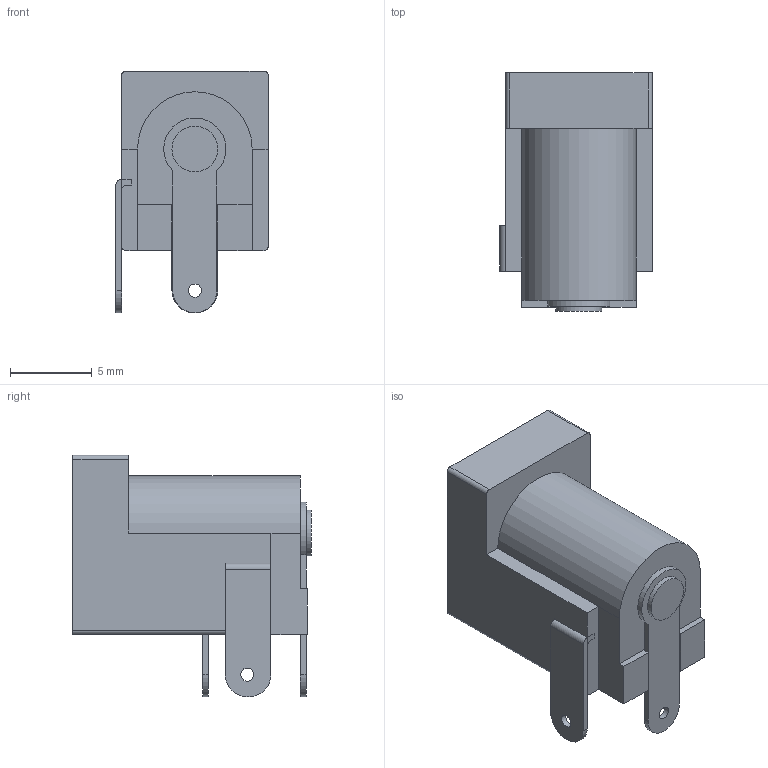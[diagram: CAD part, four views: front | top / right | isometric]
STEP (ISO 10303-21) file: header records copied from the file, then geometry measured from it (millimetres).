
FILE_DESCRIPTION(/* description */ (''),/* implementation_level */ '2;1');
FILE_NAME(/* name */ 'Power 5.5x2.1.step',/* time_stamp */ '2024-06-10T17:33:04+03:00',/* author */ (''),/* organization */ (''),/* preprocessor_version */ 'ST-DEVELOPER v20',/* originating_system */ 'Autodesk Translation Framework v13.14.0.145',/* authorisation */ '');
FILE_SCHEMA (('AUTOMOTIVE_DESIGN { 1 0 10303 214 3 1 1 }'));
Length unit declared in the file: millimetre
Products named in the file (5): Power 5.5x2.1; body; Pos.pin; Neg pin; moun pin
Assembly tree (4 placements, depth 2):
  Power 5.5x2.1
    body
    Pos.pin
    Neg pin
    moun pin
Bounding box: 9.3 x 14.55 x 14.75 mm (x, y, z)
Volume: 847.6 mm3; surface area: 1195.4 mm2
Topology: 5 solids, 5 shells, 66 faces, 160 edges, 106 vertices
Faces by surface type: plane 43, cylinder 20, bspline 3
Full cylindrical faces by diameter (mm): 0.8 x3, 2.12 x1, 2.8 x2, 6.5 x1
Entity records: 2168 total; most frequent: CARTESIAN_POINT 417, DIRECTION 343, ORIENTED_EDGE 320, EDGE_CURVE 160, AXIS2_PLACEMENT_3D 115, LINE 113, VECTOR 113, VERTEX_POINT 106
